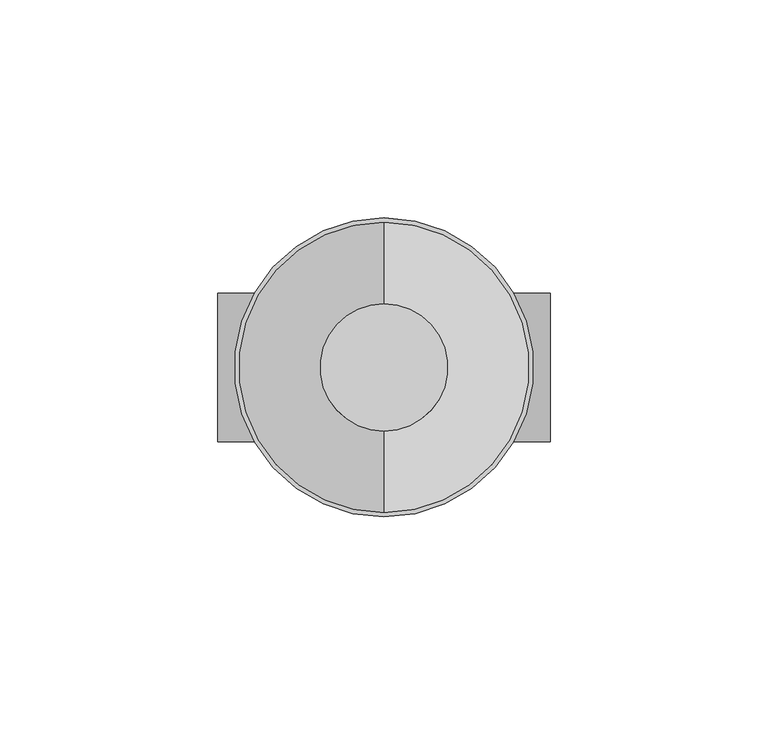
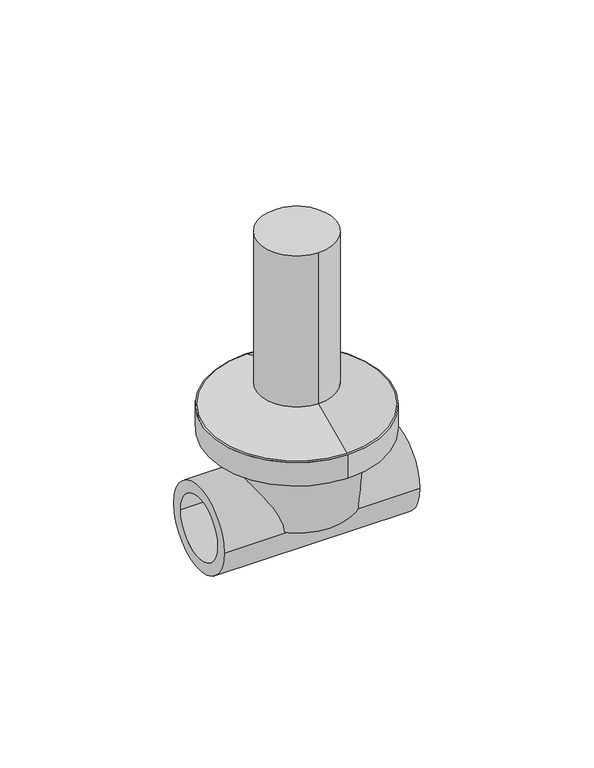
"""IFC4 building model written with IfcOpenShell, lengths in millimetres: valve geometry, Aquatherm - Concealed Valve Standard Tamper Proof : STANDARD TAMPER PROOF."""

from ifc_helpers import new_model, si_unit, point, frame, origin, origin_2d, place, context, project, spatial, polyline, circle_curve, trimmed, segment, composite_curve, outline, extrude, source, transform, mapped, element, save
from ifc_brep_helpers import plane_surface, cylinder_surface, revolved_surface, advanced_brep


def valve_0b960c35(model_context):
    return source(origin(), model_context, "Body", "SolidModel", [
        extrude(outline(composite_curve([segment(trimmed(circle_curve(origin_2d(), 34.29), [point((0.0, 34.29))], [point((0.0, -34.29))], False, "CARTESIAN"), True, "CONTINUOUS"), segment(trimmed(circle_curve(origin_2d(), 34.29), [point((0.0, -34.29))], [point((0.0, 34.29))], False, "CARTESIAN"), True, "CONTINUOUS")], self_intersect=False)), frame((0.0, 0.0, 27.94), z_axis=(0.0, 0.0, 1.0), x_axis=(1.0, 0.0, 0.0)), (0.0, 0.0, 1.0), 9.652),
        extrude(outline(composite_curve([segment(trimmed(circle_curve(origin_2d(), 14.605), [point((0.0, 14.605))], [point((0.0, -14.605))], False, "CARTESIAN"), True, "CONTINUOUS"), segment(trimmed(circle_curve(origin_2d(), 14.605), [point((0.0, -14.605))], [point((0.0, 14.605))], False, "CARTESIAN"), True, "CONTINUOUS")], self_intersect=False)), frame((0.0, 0.0, 46.736), z_axis=(0.0, 0.0, 1.0), x_axis=(1.0, 0.0, 0.0)), (0.0, 0.0, 1.0), 62.23),
        advanced_brep(
        [(0.0, 14.605, 46.736), (0.0, -14.605, 46.736), (0.0, 34.29, 37.592), (0.0, -34.29, 37.592)],
        [
            (0, 1, circle_curve(frame((0.0, 0.0, 46.736), z_axis=(0.0, 0.0, 1.0), x_axis=(0.0, 1.0, 0.0)), 14.605)),
            (1, 0, circle_curve(frame((0.0, 0.0, 46.736), z_axis=(0.0, 0.0, 1.0), x_axis=(0.0, -1.0, 0.0)), 14.605)),
            (2, 3, circle_curve(frame((0.0, 0.0, 37.592), z_axis=(0.0, 0.0, -1.0), x_axis=(0.0, -1.0, 0.0)), 34.29)),
            (3, 2, circle_curve(frame((0.0, 0.0, 37.592), z_axis=(0.0, 0.0, -1.0), x_axis=(0.0, 1.0, 0.0)), 34.29)),
            (3, 1),
            (0, 2),
        ],
        [
            plane_surface(frame((0.0, 0.0, 46.736), z_axis=(0.0, 0.0, 1.0), x_axis=(-1.0, 0.0, 0.0))),
            plane_surface(frame((0.0, 0.0, 37.592), z_axis=(0.0, 0.0, -1.0), x_axis=(-1.0, 0.0, 0.0))),
            revolved_surface(polyline([(0.0, 14.605000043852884, 46.736), (0.0, 34.29, 37.592)]), (0.0, 0.0, 53.5202581), (0.0, 0.0, -1.0)),
            revolved_surface(polyline([(0.0, -14.605000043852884, 46.736), (0.0, -34.29, 37.592)]), (0.0, 0.0, 53.5202581), (0.0, 0.0, -1.0)),
        ],
        [
            (0, [[1, 2]]),
            (1, [[3, 4]]),
            (2, [[-4, 5, -1, 6]]),
            (3, [[-3, -6, -2, -5]]),
        ],
    ),
        advanced_brep(
        [(0.0, 0.0, 27.94), (22.098, 0.0, 27.94), (-22.098, 0.0, 27.94), (-22.098, 0.0, 0.0), (22.098, 0.0, 0.0), (0.0, 0.0, 0.0)],
        [
            (0, 1),
            (1, 2, circle_curve(frame((0.0, 0.0, 27.94), z_axis=(0.0, 0.0, 1.0), x_axis=(1.0, 0.0, 0.0)), 22.098)),
            (2, 0),
            (2, 1, circle_curve(frame((0.0, 0.0, 27.94), z_axis=(0.0, 0.0, 1.0), x_axis=(1.0, 0.0, 0.0)), 22.098)),
            (3, 4, circle_curve(frame((0.0, 0.0, 0.0), z_axis=(0.0, 0.0, -1.0), x_axis=(1.0, 0.0, 0.0)), 22.098)),
            (4, 5),
            (5, 3),
            (4, 3, circle_curve(frame((0.0, 0.0, 0.0), z_axis=(0.0, 0.0, -1.0), x_axis=(1.0, 0.0, 0.0)), 22.098)),
            (1, 4),
            (3, 2),
        ],
        [
            plane_surface(frame((0.0, 0.0, 27.94), z_axis=(0.0, 0.0, 1.0), x_axis=(1.0, 0.0, 0.0))),
            plane_surface(frame((0.0, 0.0, 0.0), z_axis=(0.0, 0.0, -1.0), x_axis=(1.0, 0.0, 0.0))),
            cylinder_surface(frame((0.0, 0.0, 44.7084809), z_axis=(0.0, 0.0, 1.0), x_axis=(1.0, 0.0, 0.0)), 22.098),
        ],
        [
            (0, [[1, 2, 3]]),
            (0, [[-3, 4, -1]]),
            (1, [[5, 6, 7]]),
            (1, [[8, -7, -6]]),
            (2, [[-2, 9, -5, 10]]),
            (2, [[-4, -10, -8, -9]]),
        ],
    ),
        extrude(outline(composite_curve([segment(trimmed(circle_curve(origin_2d(), 17.018), [point((-17.018, 0.0))], [point((17.018, 0.0))], False, "CARTESIAN"), True, "CONTINUOUS"), segment(trimmed(circle_curve(origin_2d(), 17.018), [point((17.018, 0.0))], [point((-17.018, 0.0))], False, "CARTESIAN"), True, "CONTINUOUS")], self_intersect=False), holes=[composite_curve([segment(trimmed(circle_curve(origin_2d(), 12.446), [point((-12.446, 0.0))], [point((12.446, 0.0))], True, "CARTESIAN"), True, "CONTINUOUS"), segment(trimmed(circle_curve(origin_2d(), 12.446), [point((12.446, 0.0))], [point((-12.446, 0.0))], True, "CARTESIAN"), True, "CONTINUOUS")], self_intersect=False)]), frame((-38.1, 0.0, 0.0), z_axis=(1.0, 0.0, 0.0), x_axis=(0.0, 1.0, 0.0)), (0.0, 0.0, 1.0), 76.2),
    ])


if __name__ == "__main__":
    model = new_model("IFC4")
    model_context = context("Model", 3, world=origin())
    ifc_project = project(units=[si_unit("LENGTHUNIT", "METRE", prefix="MILLI")], contexts=[model_context])
    site = spatial("IfcSite", under=ifc_project)
    building = spatial("IfcBuilding", under=site)
    placement = place(None, origin())
    valve_shape = valve_0b960c35(model_context)
    element("IfcValve", 1, ObjectType="Aquatherm - Concealed Valve Standard Tamper Proof : STANDARD TAMPER PROOF", at=placement, inside=building, context=model_context, shape_type="MappedRepresentation", body=[
        mapped(valve_shape, transform((0.0, 0.0, 0.0), x_axis=(1.0, 0.0, 0.0), y_axis=(0.0, 1.0, 0.0), z_axis=(0.0, 0.0, 1.0))),
    ])
    save(model, "model.ifc")
